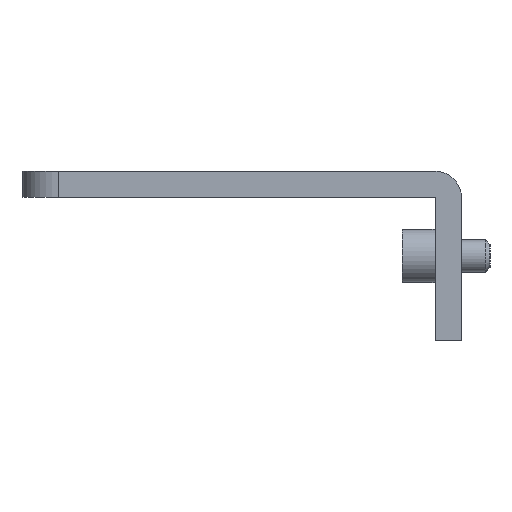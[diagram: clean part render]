
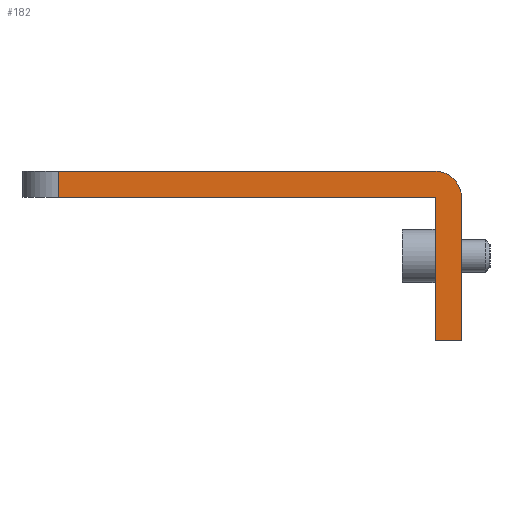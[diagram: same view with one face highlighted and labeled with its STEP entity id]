
A CAD part, left-side view. The second image highlights one B-rep face of the part: STEP entity #182.
In plain terms, the highlighted planar face has unit normal (-1, 0, 0).
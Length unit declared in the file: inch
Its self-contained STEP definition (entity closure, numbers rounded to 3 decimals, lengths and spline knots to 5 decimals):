
#83=CARTESIAN_POINT('',(0.0,1.375,-0.09));
#84=VERTEX_POINT('',#83);
#92=CARTESIAN_POINT('',(0.0,1.375,0.0));
#93=VERTEX_POINT('',#92);
#94=CARTESIAN_POINT('',(0.0,1.375,-0.09));
#95=DIRECTION('',(0.0,0.0,1.0));
#96=VECTOR('',#95,0.09);
#97=LINE('',#94,#96);
#98=EDGE_CURVE('',#84,#93,#97,.T.);
#118=CARTESIAN_POINT('',(0.0,1.5,0.0));
#119=DIRECTION('',(-1.0,0.0,0.0));
#120=DIRECTION('',(0.0,0.0,1.0));
#121=AXIS2_PLACEMENT_3D('',#118,#119,#120);
#122=PLANE('',#121);
#123=ORIENTED_EDGE('',*,*,#98,.F.);
#124=CARTESIAN_POINT('',(0.0,0.091,-0.09));
#125=VERTEX_POINT('',#124);
#126=CARTESIAN_POINT('',(0.0,1.375,-0.09));
#127=DIRECTION('',(0.0,-1.0,0.0));
#128=VECTOR('',#127,1.284);
#129=LINE('',#126,#128);
#130=EDGE_CURVE('',#84,#125,#129,.T.);
#131=ORIENTED_EDGE('',*,*,#130,.T.);
#132=CARTESIAN_POINT('',(0.0,0.09,-0.091));
#133=VERTEX_POINT('',#132);
#134=CARTESIAN_POINT('',(0.0,0.091,-0.091));
#135=DIRECTION('',(1.0,0.0,0.0));
#136=DIRECTION('',(0.0,0.0,1.0));
#137=AXIS2_PLACEMENT_3D('',#134,#135,#136);
#138=CIRCLE('',#137,0.001);
#139=EDGE_CURVE('',#125,#133,#138,.T.);
#140=ORIENTED_EDGE('',*,*,#139,.T.);
#141=CARTESIAN_POINT('',(0.0,0.09,-0.58));
#142=VERTEX_POINT('',#141);
#143=CARTESIAN_POINT('',(0.0,0.09,-0.091));
#144=DIRECTION('',(0.0,0.0,-1.0));
#145=VECTOR('',#144,0.489);
#146=LINE('',#143,#145);
#147=EDGE_CURVE('',#133,#142,#146,.T.);
#148=ORIENTED_EDGE('',*,*,#147,.T.);
#149=CARTESIAN_POINT('',(0.0,0.,-0.58));
#150=VERTEX_POINT('',#149);
#151=CARTESIAN_POINT('',(0.0,0.,-0.58));
#152=DIRECTION('',(0.0,1.0,0.0));
#153=VECTOR('',#152,0.09);
#154=LINE('',#151,#153);
#155=EDGE_CURVE('',#150,#142,#154,.T.);
#156=ORIENTED_EDGE('',*,*,#155,.F.);
#157=CARTESIAN_POINT('',(0.0,0.0,-0.091));
#158=VERTEX_POINT('',#157);
#159=CARTESIAN_POINT('',(0.0,0.,-0.091));
#160=DIRECTION('',(0.0,0.0,-1.0));
#161=VECTOR('',#160,0.489);
#162=LINE('',#159,#161);
#163=EDGE_CURVE('',#158,#150,#162,.T.);
#164=ORIENTED_EDGE('',*,*,#163,.F.);
#165=CARTESIAN_POINT('',(0.0,0.091,0.0));
#166=VERTEX_POINT('',#165);
#167=CARTESIAN_POINT('',(0.0,0.091,-0.091));
#168=DIRECTION('',(1.0,0.0,0.0));
#169=DIRECTION('',(0.0,0.0,1.0));
#170=AXIS2_PLACEMENT_3D('',#167,#168,#169);
#171=CIRCLE('',#170,0.091);
#172=EDGE_CURVE('',#166,#158,#171,.T.);
#173=ORIENTED_EDGE('',*,*,#172,.F.);
#174=CARTESIAN_POINT('',(0.0,0.091,0.0));
#175=DIRECTION('',(0.0,1.0,0.0));
#176=VECTOR('',#175,1.284);
#177=LINE('',#174,#176);
#178=EDGE_CURVE('',#166,#93,#177,.T.);
#179=ORIENTED_EDGE('',*,*,#178,.T.);
#180=EDGE_LOOP('',(#123,#131,#140,#148,#156,#164,#173,#179));
#181=FACE_OUTER_BOUND('',#180,.T.);
#182=ADVANCED_FACE('',(#181),#122,.T.);
